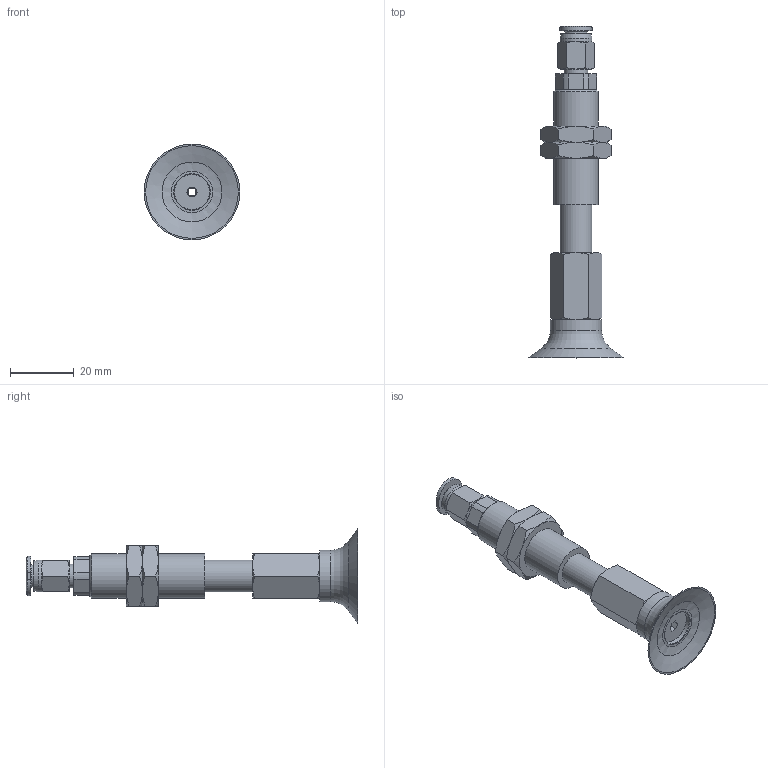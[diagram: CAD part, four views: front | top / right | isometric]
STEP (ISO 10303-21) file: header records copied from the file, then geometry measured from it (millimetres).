
FILE_DESCRIPTION(('STEP AP203'),'1');
FILE_NAME('-O.stp','2025-08-27T06:02:30',(' '),(' '),'Spatial InterOp 3D',' ',' ');
FILE_SCHEMA(('CONFIG_CONTROL_DESIGN'));
Length unit declared in the file: millimetre
Products named in the file (8): BNABPFTS-30-15-※-O; ADAPTER; NAPFTS-30-15-MBODY; TN-PF-30-M6-NAPF; Nut-30-15-s; NAPFTS-30-15-FBODY; BPFG-30-※; PC-C_06-M5
Assembly tree (8 placements, depth 2):
  BNABPFTS-30-15-※-O
    ADAPTER
    NAPFTS-30-15-MBODY
    TN-PF-30-M6-NAPF
    Nut-30-15-s  x2
    NAPFTS-30-15-FBODY
    BPFG-30-※
    PC-C_06-M5
Bounding box: 30 x 103.98 x 30 mm (x, y, z)
Volume: 14712.2 mm3; surface area: 12531.2 mm2
Topology: 7 solids, 10 shells, 180 faces, 374 edges, 225 vertices
Faces by surface type: plane 73, cone 62, cylinder 30, torus 7, bspline 5, revolution 3
Full cylindrical faces by diameter (mm): 3 x3, 4 x2, 4.134 x1, 4.917 x1, 5 x1, 6 x2, 7 x1, 7.4 x1, 8.2 x1, 10 x3, 11 x2, 12.917 x2, 14 x1, 16 x1
Entity records: 4793 total; most frequent: CARTESIAN_POINT 1348, DIRECTION 639, ORIENTED_EDGE 552, AXIS2_PLACEMENT_3D 279, EDGE_CURVE 278, EDGE_LOOP 226, VERTEX_POINT 192, FACE_OUTER_BOUND 126
